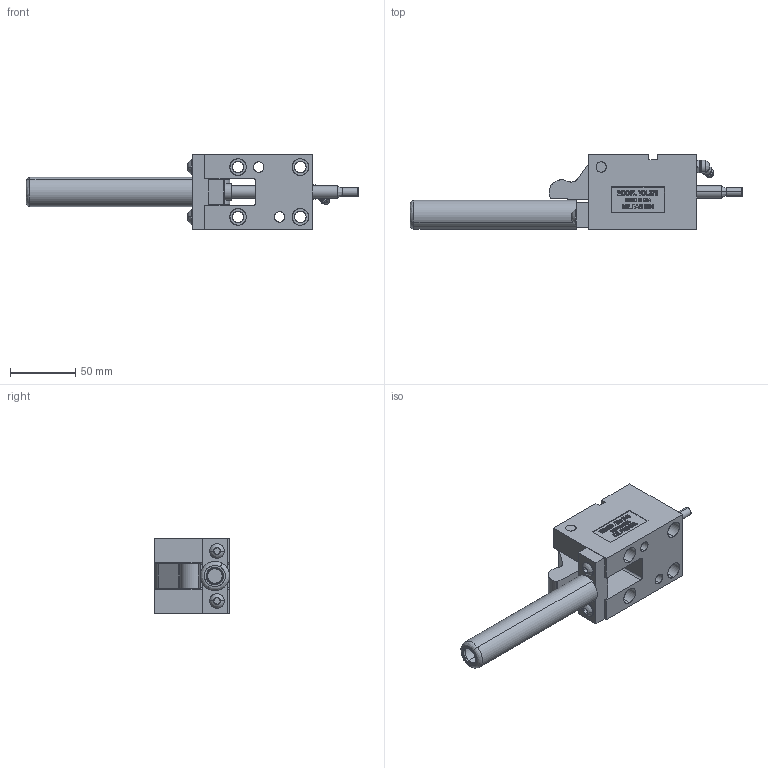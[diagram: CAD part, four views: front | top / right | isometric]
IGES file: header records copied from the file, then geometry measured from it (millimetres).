
Start section: SolidWorks IGES file using analytic representation for surfaces
Global section: file name: Y:\JIM'S INCH CAM UNITS\TOL37545\CLOSED\TOL37545-C.IGS; native system: SolidWorks 2006 by SolidWorks Corporation; preprocessor: SolidWorks 2006 by SolidWorks Corporation; author: Jim; date: 090211.141947; units: inch
Bounding box: 253.59 x 57.15 x 57.15 mm (x, y, z)
Surface area: 73986.6 mm2 (no closed solid volume)
Topology: 0 solids, 0 shells, 588 faces, 7159 edges, 7155 vertices
Faces by surface type: bspline 464, revolution 124
